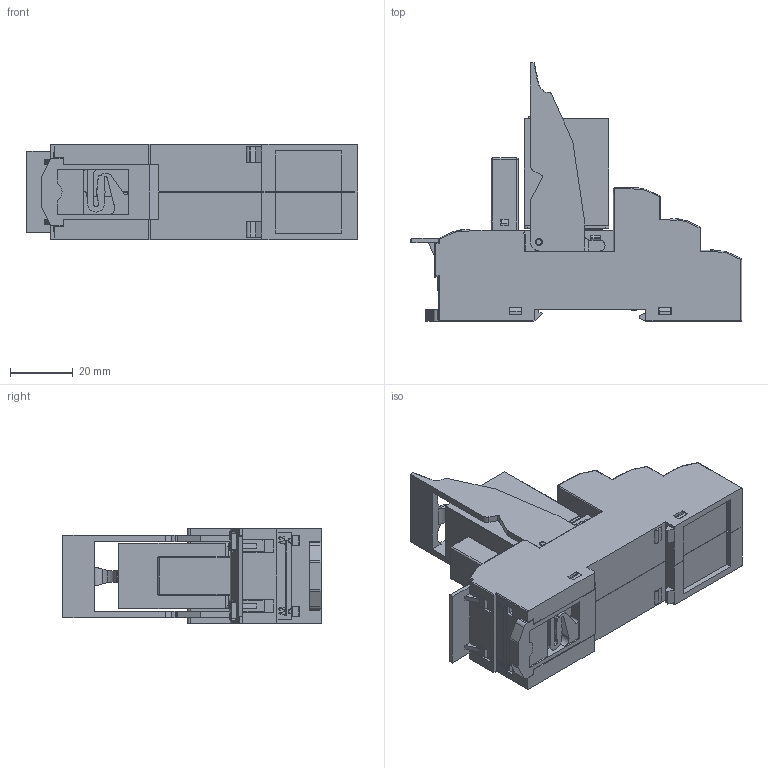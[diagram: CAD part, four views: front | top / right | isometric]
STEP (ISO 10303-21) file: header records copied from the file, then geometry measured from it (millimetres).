
FILE_DESCRIPTION (( 'STEP AP214' ), '1' );
FILE_NAME ('13. IR-4CO_IR-B4-PT_IR-RB-2_IR-MP-2_IR-FM.STEP', '2023-06-08T05:54:25', ( '' ), ( '' ), 'SwSTEP 2.0', 'SolidWorks 2022', '' );
FILE_SCHEMA (( 'AUTOMOTIVE_DESIGN' ));
Length unit declared in the file: millimetre
Products named in the file (6): IR-RB-2 (DKC); IR-MP-2 (DKC); 13. IR-4CO_IR-B4-PT_IR-RB-2_IR-MP-2_IR-FM; IR-4CO; IR-B4-PT; IR-FM
Assembly tree (5 placements, depth 2):
  13. IR-4CO_IR-B4-PT_IR-RB-2_IR-MP-2_IR-FM
    IR-B4-PT
    IR-4CO
    IR-MP-2 (DKC)
    IR-RB-2 (DKC)
    IR-FM
Bounding box: 105.7 x 82.3 x 30.6 mm (x, y, z)
Volume: 84972.2 mm3; surface area: 69054 mm2
Topology: 10 solids, 18 shells, 6362 faces, 18834 edges, 12353 vertices
Faces by surface type: plane 4644, cylinder 1333, bspline 302, cone 83
Entity records: 225189 total; most frequent: CARTESIAN_POINT 56624, ORIENTED_EDGE 37594, DIRECTION 30766, EDGE_CURVE 18797, VECTOR 14584, LINE 14584, VERTEX_POINT 12353, AXIS2_PLACEMENT_3D 8091
